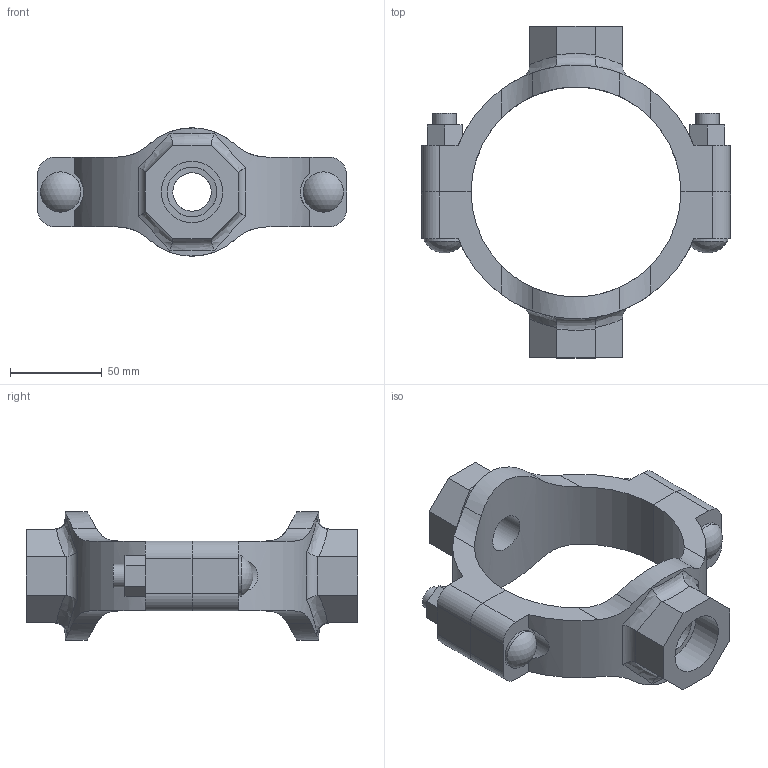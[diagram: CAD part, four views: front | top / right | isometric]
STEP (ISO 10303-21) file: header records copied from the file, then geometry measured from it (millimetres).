
FILE_DESCRIPTION(/* description */ ('VIC MECH-T BRANCH OUTLET CROSS STYLE 920N (THD)','CAx-IF Rec.Pracs.---Representation and Presentation of Product Manufacturing Information (PMI)---4.0---2014-10-13'),/* implementation_level */ '2;1');
FILE_NAME(/* name */ 'C:\Users\Vjadhav\AppData\Roaming\Autodesk\ApplicationPlugins\Back Up\Victaulic_IPS_Mechanical-Cross Outlet_Style 920N (FPT)\Victaulic_IPS_Mechanical-Cross Outlet_04.0x0.75x01.0 (100x20x25).stp',/* time_stamp */ '2020-08-06T18:58:08+05:00',/* author */ ('Vjadhav'),/* organization */ ('Victaulic'),/* preprocessor_version */ 'ST-DEVELOPER v17.2',/* originating_system */ 'Autodesk Inventor 2019',/* authorisation */ '');
FILE_SCHEMA (('AP242_MANAGED_MODEL_BASED_3D_ENGINEERING_MIM_LF { 1 0 10303 442 1 1 4 }'));
Length unit declared in the file: inch
Products named in the file (3): 920NT-04.0x0.75x01.0; 920NT-04.0x0.75; 920NT-04.0x01.0
Assembly tree (2 placements, depth 2):
  920NT-04.0x0.75x01.0
    920NT-04.0x0.75
    920NT-04.0x01.0
Bounding box: 168.4 x 180.85 x 69.82 mm (x, y, z)
Volume: 334184.9 mm3; surface area: 78811.6 mm2
Topology: 2 solids, 2 shells, 132 faces, 350 edges, 236 vertices
Faces by surface type: plane 68, cylinder 50, bspline 8, torus 4, sphere 2
Full cylindrical faces by diameter (mm): 12.7 x4, 20.93 x1, 21.982 x2, 26.67 x1, 26.987 x1, 33.401 x1
Entity records: 5234 total; most frequent: CARTESIAN_POINT 1721, ORIENTED_EDGE 700, DIRECTION 648, EDGE_CURVE 350, VERTEX_POINT 236, AXIS2_PLACEMENT_3D 231, LINE 186, VECTOR 186
